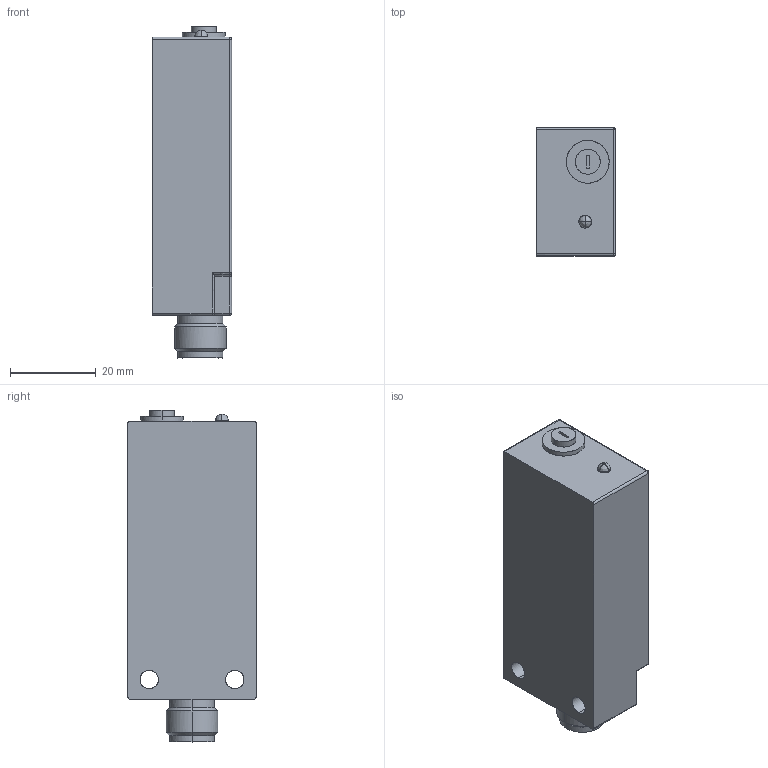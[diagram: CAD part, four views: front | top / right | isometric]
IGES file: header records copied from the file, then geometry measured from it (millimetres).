
Start section: Comment
Global section: file name: CFDK_30_Pot_S14.igs; native system:  By Spatial Corp.; preprocessor: XPlus GENERIC/IGES 3.0; author: Author; organization: Title; date: 20040804.171419; units: inch
Bounding box: 18.5 x 30 x 77.6 mm (x, y, z)
Surface area: 8462.7 mm2 (no closed solid volume)
Topology: 0 solids, 0 shells, 115 faces, 523 edges, 512 vertices
Faces by surface type: bspline 115
